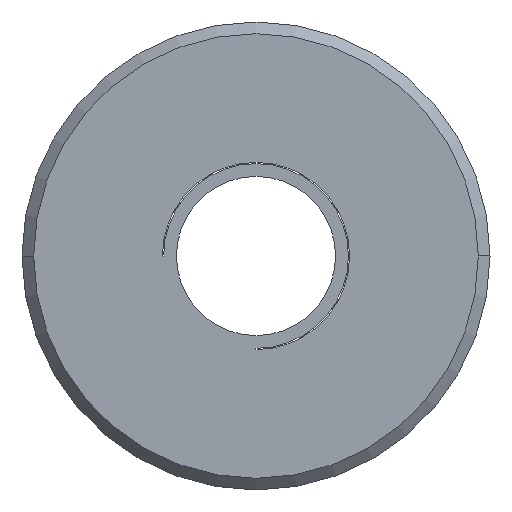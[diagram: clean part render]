
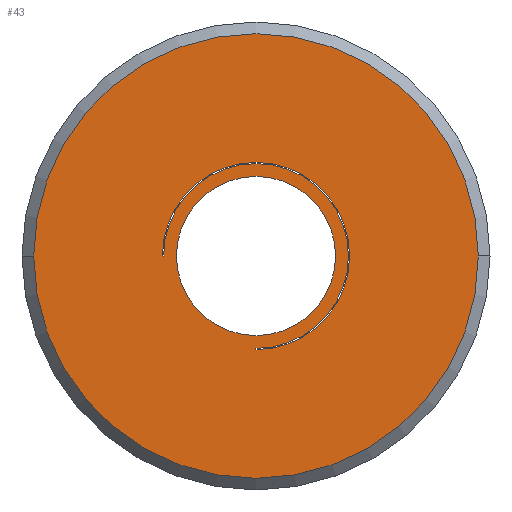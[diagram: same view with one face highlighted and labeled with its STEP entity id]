
A CAD part, left-side view. The second image highlights one B-rep face of the part: STEP entity #43.
In plain terms, the highlighted planar face has unit normal (-1, 0, 0).
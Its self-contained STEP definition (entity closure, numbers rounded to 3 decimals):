
#1 = VERTEX_POINT ( 'NONE', #186 ) ;
#14 = DIRECTION ( 'NONE',  ( 0., 0., -1. ) ) ;
#24 = ORIENTED_EDGE ( 'NONE', *, *, #144, .T. ) ;
#32 = ORIENTED_EDGE ( 'NONE', *, *, #56, .F. ) ;
#42 = DIRECTION ( 'NONE',  ( 0., 0., -1. ) ) ;
#43 = ADVANCED_FACE ( 'NONE', ( #46, #302, #562 ), #503, .T. ) ;
#45 = AXIS2_PLACEMENT_3D ( 'NONE', #128, #721, #525 ) ;
#46 = FACE_OUTER_BOUND ( 'NONE', #205, .T. ) ;
#48 = AXIS2_PLACEMENT_3D ( 'NONE', #770, #628, #50 ) ;
#49 = DIRECTION ( 'NONE',  ( 1., 0., 0. ) ) ;
#50 = DIRECTION ( 'NONE',  ( 0., 0., 1. ) ) ;
#55 = DIRECTION ( 'NONE',  ( -1., 0., 0. ) ) ;
#56 = EDGE_CURVE ( 'NONE', #699, #477, #112, .T. ) ;
#61 = AXIS2_PLACEMENT_3D ( 'NONE', #459, #67, #378 ) ;
#67 = DIRECTION ( 'NONE',  ( 1., 0., 0. ) ) ;
#74 = VERTEX_POINT ( 'NONE', #149 ) ;
#86 = VERTEX_POINT ( 'NONE', #543 ) ;
#100 = CARTESIAN_POINT ( 'NONE',  ( 0., 0., 0. ) ) ;
#112 = CIRCLE ( 'NONE', #791, 9.5 ) ;
#115 = DIRECTION ( 'NONE',  ( 0., 1., 0. ) ) ;
#125 = EDGE_CURVE ( 'NONE', #409, #316, #573, .T. ) ;
#128 = CARTESIAN_POINT ( 'NONE',  ( 0., 0., 0. ) ) ;
#137 = AXIS2_PLACEMENT_3D ( 'NONE', #570, #704, #508 ) ;
#139 = AXIS2_PLACEMENT_3D ( 'NONE', #645, #785, #14 ) ;
#143 = CARTESIAN_POINT ( 'NONE',  ( 0., 9.5, 0. ) ) ;
#144 = EDGE_CURVE ( 'NONE', #188, #322, #764, .T. ) ;
#149 = CARTESIAN_POINT ( 'NONE',  ( 0., 4., 0. ) ) ;
#153 = ORIENTED_EDGE ( 'NONE', *, *, #338, .T. ) ;
#173 = CARTESIAN_POINT ( 'NONE',  ( 0., 0., -1.988 ) ) ;
#182 = CARTESIAN_POINT ( 'NONE',  ( 0., 0., 0. ) ) ;
#186 = CARTESIAN_POINT ( 'NONE',  ( 0., 3.95, 0. ) ) ;
#188 = VERTEX_POINT ( 'NONE', #242 ) ;
#192 = CARTESIAN_POINT ( 'NONE',  ( 0., 0., 0. ) ) ;
#205 = EDGE_LOOP ( 'NONE', ( #225, #32 ) ) ;
#214 = CIRCLE ( 'NONE', #622, 3.95 ) ;
#223 = VECTOR ( 'NONE', #382, 1000. ) ;
#225 = ORIENTED_EDGE ( 'NONE', *, *, #492, .F. ) ;
#227 = CARTESIAN_POINT ( 'NONE',  ( 0., -9.5, 0. ) ) ;
#242 = CARTESIAN_POINT ( 'NONE',  ( 0., 0., -3.95 ) ) ;
#246 = EDGE_CURVE ( 'NONE', #316, #188, #823, .T. ) ;
#257 = EDGE_CURVE ( 'NONE', #74, #409, #395, .T. ) ;
#302 = FACE_BOUND ( 'NONE', #593, .T. ) ;
#307 = DIRECTION ( 'NONE',  ( 1., 0., 0. ) ) ;
#316 = VERTEX_POINT ( 'NONE', #437 ) ;
#322 = VERTEX_POINT ( 'NONE', #685 ) ;
#327 = CIRCLE ( 'NONE', #139, 3.4 ) ;
#331 = LINE ( 'NONE', #707, #223 ) ;
#338 = EDGE_CURVE ( 'NONE', #86, #408, #687, .T. ) ;
#352 = ORIENTED_EDGE ( 'NONE', *, *, #257, .T. ) ;
#356 = VECTOR ( 'NONE', #755, 1000. ) ;
#375 = ORIENTED_EDGE ( 'NONE', *, *, #125, .T. ) ;
#378 = DIRECTION ( 'NONE',  ( 0., 1., 0. ) ) ;
#382 = DIRECTION ( 'NONE',  ( 0., 1., 0. ) ) ;
#395 = CIRCLE ( 'NONE', #652, 4. ) ;
#408 = VERTEX_POINT ( 'NONE', #747 ) ;
#409 = VERTEX_POINT ( 'NONE', #801 ) ;
#437 = CARTESIAN_POINT ( 'NONE',  ( 0., 0., -4. ) ) ;
#459 = CARTESIAN_POINT ( 'NONE',  ( 0., 0., 0. ) ) ;
#477 = VERTEX_POINT ( 'NONE', #143 ) ;
#492 = EDGE_CURVE ( 'NONE', #477, #699, #744, .T. ) ;
#493 = CARTESIAN_POINT ( 'NONE',  ( 0., 0., 0. ) ) ;
#503 = PLANE ( 'NONE',  #48 ) ;
#508 = DIRECTION ( 'NONE',  ( 0., 1., 0. ) ) ;
#525 = DIRECTION ( 'NONE',  ( 0., 1., 0. ) ) ;
#535 = ORIENTED_EDGE ( 'NONE', *, *, #246, .T. ) ;
#541 = EDGE_LOOP ( 'NONE', ( #24, #655, #625, #352, #375, #535 ) ) ;
#543 = CARTESIAN_POINT ( 'NONE',  ( 0., 0., 3.4 ) ) ;
#557 = DIRECTION ( 'NONE',  ( 0., 1., 0. ) ) ;
#558 = EDGE_CURVE ( 'NONE', #408, #86, #327, .T. ) ;
#559 = DIRECTION ( 'NONE',  ( 1., 0., 0. ) ) ;
#562 = FACE_BOUND ( 'NONE', #541, .T. ) ;
#566 = DIRECTION ( 'NONE',  ( 0., 1., 0. ) ) ;
#570 = CARTESIAN_POINT ( 'NONE',  ( 0., 0., 0. ) ) ;
#573 = CIRCLE ( 'NONE', #61, 4. ) ;
#593 = EDGE_LOOP ( 'NONE', ( #153, #611 ) ) ;
#611 = ORIENTED_EDGE ( 'NONE', *, *, #558, .T. ) ;
#622 = AXIS2_PLACEMENT_3D ( 'NONE', #192, #55, #115 ) ;
#625 = ORIENTED_EDGE ( 'NONE', *, *, #657, .T. ) ;
#628 = DIRECTION ( 'NONE',  ( -1., 0., 0. ) ) ;
#645 = CARTESIAN_POINT ( 'NONE',  ( 0., 0., 0. ) ) ;
#652 = AXIS2_PLACEMENT_3D ( 'NONE', #493, #49, #557 ) ;
#655 = ORIENTED_EDGE ( 'NONE', *, *, #833, .T. ) ;
#657 = EDGE_CURVE ( 'NONE', #1, #74, #331, .T. ) ;
#685 = CARTESIAN_POINT ( 'NONE',  ( 0., 0., 3.95 ) ) ;
#687 = CIRCLE ( 'NONE', #728, 3.4 ) ;
#699 = VERTEX_POINT ( 'NONE', #227 ) ;
#704 = DIRECTION ( 'NONE',  ( -1., 0., 0. ) ) ;
#707 = CARTESIAN_POINT ( 'NONE',  ( 0., 4.362, 0. ) ) ;
#721 = DIRECTION ( 'NONE',  ( 1., 0., 0. ) ) ;
#728 = AXIS2_PLACEMENT_3D ( 'NONE', #100, #559, #42 ) ;
#744 = CIRCLE ( 'NONE', #45, 9.5 ) ;
#747 = CARTESIAN_POINT ( 'NONE',  ( 0., 0., -3.4 ) ) ;
#755 = DIRECTION ( 'NONE',  ( 0., 0., 1. ) ) ;
#764 = CIRCLE ( 'NONE', #137, 3.95 ) ;
#770 = CARTESIAN_POINT ( 'NONE',  ( 0., 4.75, 0. ) ) ;
#785 = DIRECTION ( 'NONE',  ( 1., 0., 0. ) ) ;
#791 = AXIS2_PLACEMENT_3D ( 'NONE', #182, #307, #566 ) ;
#801 = CARTESIAN_POINT ( 'NONE',  ( 0., 0., 4. ) ) ;
#823 = LINE ( 'NONE', #173, #356 ) ;
#833 = EDGE_CURVE ( 'NONE', #322, #1, #214, .T. ) ;
